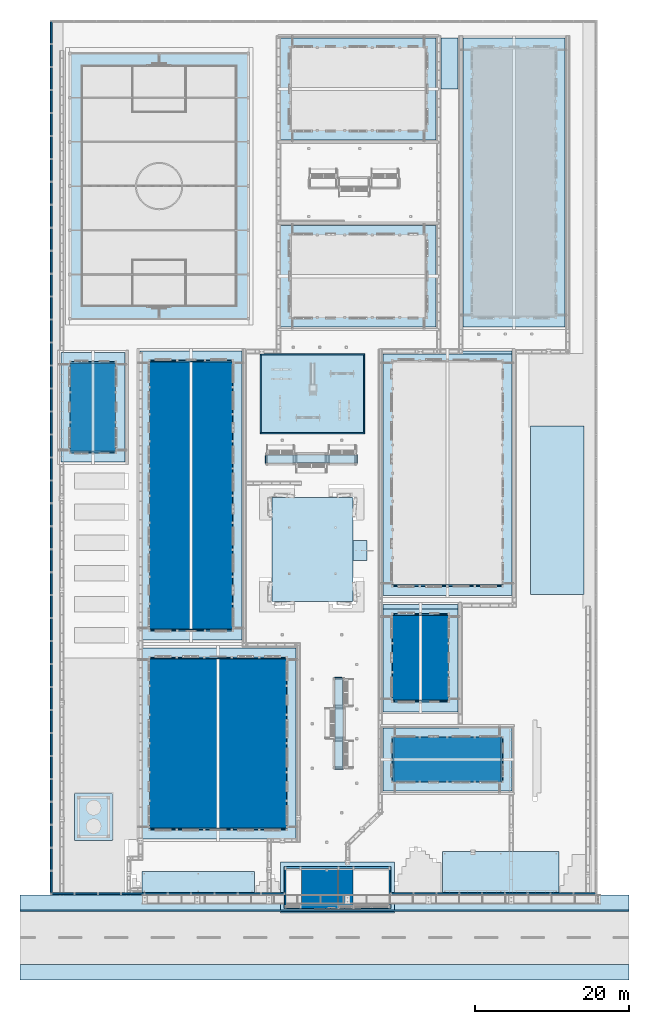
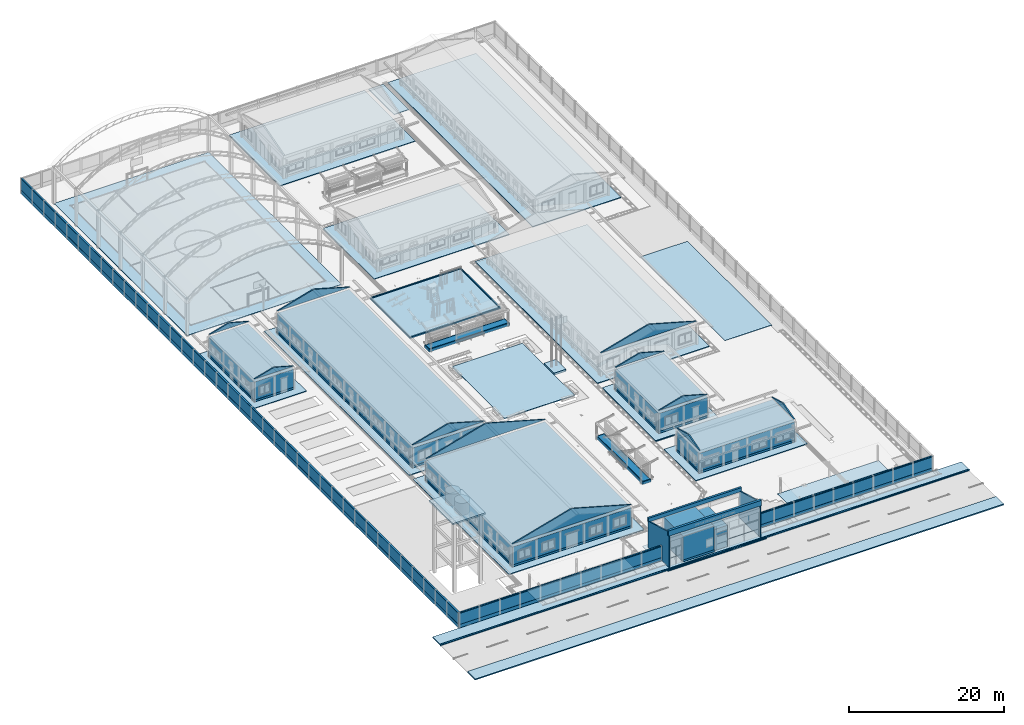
# One storey, part 32 of 151: 41 walls, 31 slabs.
"""IFC2X3 building model written with IfcOpenShell, lengths in metres."""

from ifc_helpers import new_model, si_unit, origin, origin_with_axes, place, context, subcontext, project, spatial, faceted_brep, element, save


model = new_model("IFC2X3")

# Units and contexts
model_context = context("Model", 3, precision=1e-05, world=origin_with_axes())
body_context = subcontext(model_context, "Body", "Model", "MODEL_VIEW")
ifc_project = project(units=[si_unit("LENGTHUNIT", "METRE"), si_unit("AREAUNIT", "SQUARE_METRE"), si_unit("VOLUMEUNIT", "CUBIC_METRE"), si_unit("PLANEANGLEUNIT", "RADIAN")], contexts=[model_context])

# Site, building, storey
site_placement = place(None, origin_with_axes())
site = spatial("IfcSite", under=ifc_project, at=site_placement, Name="Predio Los Mangos - Morales, San Martín", CompositionType="ELEMENT")
building_placement = place(site_placement, origin())
building = spatial("IfcBuilding", under=site, at=building_placement, Name="Hogar de Refugio Temporal", CompositionType="ELEMENT")
storey_placement = place(building_placement, origin())
storey = spatial("IfcBuildingStorey", under=building, at=storey_placement, Name="NIVEL 1 (NPT +0.00)", CompositionType="ELEMENT", Elevation=0.0)

# Slabs
slab_1_placement = place(storey_placement, origin())
element("IfcSlab", 1, at=slab_1_placement, inside=storey, Name="vereda_ext", ObjectType="Piso / losa", PredefinedType="FLOOR", context=body_context, shape_type="Brep", body=[
    faceted_brep([(-3.0, 15.8, -0.02), (-3.0, 17.8, -0.02), (76.0, 17.8, -0.02), (76.0, 15.8, -0.02), (-3.0, 15.8, 0.15), (76.0, 15.8, 0.15), (76.0, 17.8, 0.15), (-3.0, 17.8, 0.15)], [[[0, 1, 2, 3]], [[4, 5, 6, 7]], [[0, 3, 5, 4]], [[3, 2, 6, 5]], [[2, 1, 7, 6]], [[1, 0, 4, 7]]]),
])
slab_2_placement = place(storey_placement, origin())
element("IfcSlab", 2, at=slab_2_placement, inside=storey, Name="vereda_otra", ObjectType="Piso / losa", PredefinedType="FLOOR", context=body_context, shape_type="Brep", body=[
    faceted_brep([(-3.0, 6.8, -0.02), (-3.0, 8.8, -0.02), (76.0, 8.8, -0.02), (76.0, 6.8, -0.02), (-3.0, 6.8, 0.15), (76.0, 6.8, 0.15), (76.0, 8.8, 0.15), (-3.0, 8.8, 0.15)], [[[0, 1, 2, 3]], [[4, 5, 6, 7]], [[0, 3, 5, 4]], [[3, 2, 6, 5]], [[2, 1, 7, 6]], [[1, 0, 4, 7]]]),
])
slab_3_placement = place(storey_placement, origin())
element("IfcSlab", 3, at=slab_3_placement, inside=storey, Name="sardinel", ObjectType="Piso / losa", PredefinedType="FLOOR", context=body_context, shape_type="Brep", body=[
    faceted_brep([(-3.0, 15.7, -0.02), (-3.0, 15.85, -0.02), (76.0, 15.85, -0.02), (76.0, 15.7, -0.02), (-3.0, 15.7, 0.17), (76.0, 15.7, 0.17), (76.0, 15.85, 0.17), (-3.0, 15.85, 0.17)], [[[0, 1, 2, 3]], [[4, 5, 6, 7]], [[0, 3, 5, 4]], [[3, 2, 6, 5]], [[2, 1, 7, 6]], [[1, 0, 4, 7]]]),
])
slab_4_placement = place(storey_placement, origin())
element("IfcSlab", 4, at=slab_4_placement, inside=storey, Name="vereda_0", ObjectType="Piso / losa", PredefinedType="FLOOR", context=body_context, shape_type="Brep", body=[
    faceted_brep([(44.08, 56.674, 0.0), (60.81, 56.674, 0.0), (60.81, 88.004, 0.0), (44.08, 88.004, 0.0), (44.08, 56.674, 0.1), (44.08, 88.004, 0.1), (60.81, 88.004, 0.1), (60.81, 56.674, 0.1)], [[[0, 1, 2, 3]], [[4, 5, 6, 7]], [[3, 2, 6, 5]], [[1, 0, 4, 7]], [[2, 1, 7, 6]], [[0, 3, 5, 4]]]),
])
slab_5_placement = place(storey_placement, origin())
element("IfcSlab", 5, at=slab_5_placement, inside=storey, Name="vereda_1", ObjectType="Piso / losa", PredefinedType="FLOOR", context=body_context, shape_type="Brep", body=[
    faceted_brep([(63.205, 78.669, 0.0), (63.205, 56.844, 0.0), (70.205, 56.844, 0.0), (70.205, 78.669, 0.0), (63.205, 78.669, 0.102), (70.205, 78.669, 0.102), (70.205, 56.844, 0.102), (63.205, 56.844, 0.102)], [[[0, 1, 2, 3]], [[4, 5, 6, 7]], [[0, 3, 5, 4]], [[3, 2, 6, 5]], [[1, 0, 4, 7]], [[2, 1, 7, 6]]]),
])
slab_6_placement = place(storey_placement, origin())
element("IfcSlab", 6, at=slab_6_placement, inside=storey, Name="vereda_2", ObjectType="Piso / losa", PredefinedType="FLOOR", context=body_context, shape_type="Brep", body=[
    faceted_brep([(51.635, 129.024, 0.0), (51.635, 122.424, 0.0), (53.835, 122.424, 0.0), (53.835, 129.024, 0.0), (51.635, 129.024, 0.104), (53.835, 129.024, 0.104), (53.835, 122.424, 0.104), (51.635, 122.424, 0.104)], [[[0, 1, 2, 3]], [[4, 5, 6, 7]], [[0, 3, 5, 4]], [[3, 2, 6, 5]], [[1, 0, 4, 7]], [[2, 1, 7, 6]]]),
])
slab_7_placement = place(storey_placement, origin())
element("IfcSlab", 7, at=slab_7_placement, inside=storey, Name="vereda_3", ObjectType="Piso / losa", PredefinedType="FLOOR", context=body_context, shape_type="Brep", body=[
    faceted_brep([(54.485, 129.024, 0.0), (54.485, 91.494, 0.0), (67.715, 91.494, 0.0), (67.715, 129.024, 0.0), (54.485, 129.024, 0.106), (67.715, 129.024, 0.106), (67.715, 91.494, 0.106), (54.485, 91.494, 0.106)], [[[0, 1, 2, 3]], [[4, 5, 6, 7]], [[1, 0, 4, 7]], [[2, 1, 7, 6]], [[0, 3, 5, 4]], [[3, 2, 6, 5]]]),
])
slab_8_placement = place(storey_placement, origin())
element("IfcSlab", 8, at=slab_8_placement, inside=storey, Name="vereda_4", ObjectType="Piso / losa", PredefinedType="FLOOR", context=body_context, shape_type="Brep", body=[
    faceted_brep([(53.81, 54.905, 0.0), (44.08, 54.905, 0.0), (44.08, 41.575, 0.0), (53.81, 41.575, 0.0), (53.81, 54.905, 0.108), (53.81, 41.575, 0.108), (44.08, 41.575, 0.108), (44.08, 54.905, 0.108)], [[[0, 1, 2, 3]], [[4, 5, 6, 7]], [[1, 0, 4, 7]], [[2, 1, 7, 6]], [[0, 3, 5, 4]], [[3, 2, 6, 5]]]),
])
slab_9_placement = place(storey_placement, origin())
element("IfcSlab", 9, at=slab_9_placement, inside=storey, Name="vereda_5", ObjectType="Piso / losa", PredefinedType="FLOOR", context=body_context, shape_type="Brep", body=[
    faceted_brep([(28.185, 88.004, 0.0), (28.185, 77.709, 0.0), (41.685, 77.709, 0.0), (41.685, 88.004, 0.0), (28.185, 88.004, 0.11), (41.685, 88.004, 0.11), (41.685, 77.709, 0.11), (28.185, 77.709, 0.11)], [[[0, 1, 2, 3]], [[4, 5, 6, 7]], [[0, 3, 5, 4]], [[3, 2, 6, 5]], [[1, 0, 4, 7]], [[2, 1, 7, 6]]]),
])
slab_10_placement = place(storey_placement, origin())
element("IfcSlab", 10, at=slab_10_placement, inside=storey, Name="vereda_6", ObjectType="Piso / losa", PredefinedType="FLOOR", context=body_context, shape_type="Brep", body=[
    faceted_brep([(28.285, 87.904, 0.0), (28.285, 77.809, 0.0), (41.585, 77.809, 0.0), (41.585, 87.904, 0.0), (28.285, 87.904, 0.112), (41.585, 87.904, 0.112), (41.585, 77.809, 0.112), (28.285, 77.809, 0.112)], [[[0, 1, 2, 3]], [[4, 5, 6, 7]], [[0, 3, 5, 4]], [[3, 2, 6, 5]], [[1, 0, 4, 7]], [[2, 1, 7, 6]]]),
])
slab_11_placement = place(storey_placement, origin())
element("IfcSlab", 11, at=slab_11_placement, inside=storey, Name="E-01_piso", ObjectType="Piso / losa", PredefinedType="FLOOR", context=body_context, shape_type="Brep", body=[
    faceted_brep([(12.6, 25.1, 0.0), (12.6, 49.9, 0.0), (32.8, 49.9, 0.0), (32.8, 25.1, 0.0), (12.6, 25.1, 0.15), (32.8, 25.1, 0.15), (32.8, 49.9, 0.15), (12.6, 49.9, 0.15)], [[[0, 1, 2, 3]], [[4, 5, 6, 7]], [[0, 3, 5, 4]], [[3, 2, 6, 5]], [[2, 1, 7, 6]], [[1, 0, 4, 7]]]),
])
slab_12_placement = place(storey_placement, origin())
element("IfcSlab", 12, at=slab_12_placement, inside=storey, Name="E-02_piso", ObjectType="Piso / losa", PredefinedType="FLOOR", context=body_context, shape_type="Brep", body=[
    faceted_brep([(44.1, 41.7, 0.0), (44.1, 55.5, 0.0), (53.8, 55.5, 0.0), (53.8, 41.7, 0.0), (44.1, 41.7, 0.15), (53.8, 41.7, 0.15), (53.8, 55.5, 0.15), (44.1, 55.5, 0.15)], [[[0, 1, 2, 3]], [[4, 5, 6, 7]], [[0, 3, 5, 4]], [[3, 2, 6, 5]], [[2, 1, 7, 6]], [[1, 0, 4, 7]]]),
])
slab_13_placement = place(storey_placement, origin())
element("IfcSlab", 13, at=slab_13_placement, inside=storey, Name="E-03_piso", ObjectType="Piso / losa", PredefinedType="FLOOR", context=body_context, shape_type="Brep", body=[
    faceted_brep([(44.1, 31.3, 0.0), (44.1, 39.5, 0.0), (60.8, 39.5, 0.0), (60.8, 31.3, 0.0), (44.1, 31.3, 0.15), (60.8, 31.3, 0.15), (60.8, 39.5, 0.15), (44.1, 39.5, 0.15)], [[[0, 1, 2, 3]], [[4, 5, 6, 7]], [[0, 3, 5, 4]], [[3, 2, 6, 5]], [[2, 1, 7, 6]], [[1, 0, 4, 7]]]),
])
slab_14_placement = place(storey_placement, origin())
element("IfcSlab", 14, at=slab_14_placement, inside=storey, Name="E-04_piso", ObjectType="Piso / losa", PredefinedType="FLOOR", context=body_context, shape_type="Brep", body=[
    faceted_brep([(12.6, 50.9, 0.0), (12.6, 88.4, 0.0), (25.8, 88.4, 0.0), (25.8, 50.9, 0.0), (12.6, 50.9, 0.15), (25.8, 50.9, 0.15), (25.8, 88.4, 0.15), (12.6, 88.4, 0.15)], [[[0, 1, 2, 3]], [[4, 5, 6, 7]], [[0, 3, 5, 4]], [[3, 2, 6, 5]], [[2, 1, 7, 6]], [[1, 0, 4, 7]]]),
])
slab_15_placement = place(storey_placement, origin())
element("IfcSlab", 15, at=slab_15_placement, inside=storey, Name="E-05_piso", ObjectType="Piso / losa", PredefinedType="FLOOR", context=body_context, shape_type="Brep", body=[
    faceted_brep([(44.1, 56.7, 0.0), (44.1, 88.4, 0.0), (60.8, 88.4, 0.0), (60.8, 56.7, 0.0), (44.1, 56.7, 0.15), (60.8, 56.7, 0.15), (60.8, 88.4, 0.15), (44.1, 88.4, 0.15)], [[[0, 1, 2, 3]], [[4, 5, 6, 7]], [[0, 3, 5, 4]], [[3, 2, 6, 5]], [[2, 1, 7, 6]], [[1, 0, 4, 7]]]),
])
slab_16_placement = place(storey_placement, origin())
element("IfcSlab", 16, at=slab_16_placement, inside=storey, Name="E-06_piso", ObjectType="Piso / losa", PredefinedType="FLOOR", context=body_context, shape_type="Brep", body=[
    faceted_brep([(30.8, 91.5, 0.0), (30.8, 104.7, 0.0), (51.0, 104.7, 0.0), (51.0, 91.5, 0.0), (30.8, 91.5, 0.15), (51.0, 91.5, 0.15), (51.0, 104.7, 0.15), (30.8, 104.7, 0.15)], [[[0, 1, 2, 3]], [[4, 5, 6, 7]], [[0, 3, 5, 4]], [[3, 2, 6, 5]], [[2, 1, 7, 6]], [[1, 0, 4, 7]]]),
])
slab_17_placement = place(storey_placement, origin())
element("IfcSlab", 17, at=slab_17_placement, inside=storey, Name="E-08_piso", ObjectType="Piso / losa", PredefinedType="FLOOR", context=body_context, shape_type="Brep", body=[
    faceted_brep([(30.8, 115.8, 0.0), (30.8, 129.0, 0.0), (51.0, 129.0, 0.0), (51.0, 115.8, 0.0), (30.8, 115.8, 0.15), (51.0, 115.8, 0.15), (51.0, 129.0, 0.15), (30.8, 129.0, 0.15)], [[[0, 1, 2, 3]], [[4, 5, 6, 7]], [[0, 3, 5, 4]], [[3, 2, 6, 5]], [[2, 1, 7, 6]], [[1, 0, 4, 7]]]),
])
slab_18_placement = place(storey_placement, origin())
element("IfcSlab", 18, at=slab_18_placement, inside=storey, Name="E-07_piso", ObjectType="Piso / losa", PredefinedType="FLOOR", context=body_context, shape_type="Brep", body=[
    faceted_brep([(54.5, 91.5, 0.0), (54.5, 129.0, 0.0), (67.7, 129.0, 0.0), (67.7, 91.5, 0.0), (54.5, 91.5, 0.15), (67.7, 91.5, 0.15), (67.7, 129.0, 0.15), (54.5, 129.0, 0.15)], [[[0, 1, 2, 3]], [[4, 5, 6, 7]], [[0, 3, 5, 4]], [[3, 2, 6, 5]], [[2, 1, 7, 6]], [[1, 0, 4, 7]]]),
])
slab_19_placement = place(storey_placement, origin())
element("IfcSlab", 19, at=slab_19_placement, inside=storey, Name="E-09_piso", ObjectType="Piso / losa", PredefinedType="FLOOR", context=body_context, shape_type="Brep", body=[
    faceted_brep([(2.3, 74.0, 0.0), (2.3, 88.2, 0.0), (10.6, 88.2, 0.0), (10.6, 74.0, 0.0), (2.3, 74.0, 0.15), (10.6, 74.0, 0.15), (10.6, 88.2, 0.15), (2.3, 88.2, 0.15)], [[[0, 1, 2, 3]], [[4, 5, 6, 7]], [[0, 3, 5, 4]], [[3, 2, 6, 5]], [[2, 1, 7, 6]], [[1, 0, 4, 7]]]),
])
slab_20_placement = place(storey_placement, origin())
element("IfcSlab", 20, at=slab_20_placement, inside=storey, Name="losa", ObjectType="Piso / losa", PredefinedType="FLOOR", context=body_context, shape_type="Brep", body=[
    faceted_brep([(3.5, 92.6, 0.0), (3.5, 127.0, 0.0), (26.6, 127.0, 0.0), (26.6, 92.6, 0.0), (3.5, 92.6, 0.12), (26.6, 92.6, 0.12), (26.6, 127.0, 0.12), (3.5, 127.0, 0.12)], [[[0, 1, 2, 3]], [[4, 5, 6, 7]], [[0, 3, 5, 4]], [[3, 2, 6, 5]], [[2, 1, 7, 6]], [[1, 0, 4, 7]]]),
])
slab_21_placement = place(storey_placement, origin())
element("IfcSlab", 21, at=slab_21_placement, inside=storey, Name="oe01_piso", ObjectType="Piso / losa", PredefinedType="FLOOR", context=body_context, shape_type="Brep", body=[
    faceted_brep([(30.8, 15.5, 0.0), (30.8, 22.1, 0.0), (45.6, 22.1, 0.0), (45.6, 15.5, 0.0), (30.8, 15.5, 0.05), (45.6, 15.5, 0.05), (45.6, 22.1, 0.05), (30.8, 22.1, 0.05)], [[[0, 1, 2, 3]], [[4, 5, 6, 7]], [[0, 3, 5, 4]], [[3, 2, 6, 5]], [[2, 1, 7, 6]], [[1, 0, 4, 7]]]),
])
slab_22_placement = place(storey_placement, origin())
element("IfcSlab", 22, at=slab_22_placement, inside=storey, Name="losa_autos", ObjectType="Piso / losa", PredefinedType="FLOOR", context=body_context, shape_type="Brep", body=[
    faceted_brep([(51.8, 18.0, 0.0), (51.8, 23.5, 0.0), (66.9, 23.5, 0.0), (66.9, 18.0, 0.0), (51.8, 18.0, 0.1), (66.9, 18.0, 0.1), (66.9, 23.5, 0.1), (51.8, 23.5, 0.1)], [[[0, 1, 2, 3]], [[4, 5, 6, 7]], [[0, 3, 5, 4]], [[3, 2, 6, 5]], [[2, 1, 7, 6]], [[1, 0, 4, 7]]]),
])
slab_23_placement = place(storey_placement, origin())
element("IfcSlab", 23, at=slab_23_placement, inside=storey, Name="losa_motos", ObjectType="Piso / losa", PredefinedType="FLOOR", context=body_context, shape_type="Brep", body=[
    faceted_brep([(12.8, 18.0, 0.0), (12.8, 20.9, 0.0), (27.4, 20.9, 0.0), (27.4, 18.0, 0.0), (12.8, 18.0, 0.1), (27.4, 18.0, 0.1), (27.4, 20.9, 0.1), (12.8, 20.9, 0.1)], [[[0, 1, 2, 3]], [[4, 5, 6, 7]], [[0, 3, 5, 4]], [[3, 2, 6, 5]], [[2, 1, 7, 6]], [[1, 0, 4, 7]]]),
])
slab_24_placement = place(storey_placement, origin())
element("IfcSlab", 24, at=slab_24_placement, inside=storey, Name="tanque_losa", ObjectType="Piso / losa", PredefinedType="FLOOR", context=body_context, shape_type="Brep", body=[
    faceted_brep([(4.1, 24.9, 11.0), (4.1, 31.0, 11.0), (9.0, 31.0, 11.0), (9.0, 24.9, 11.0), (4.1, 24.9, 11.25), (9.0, 24.9, 11.25), (9.0, 31.0, 11.25), (4.1, 31.0, 11.25)], [[[0, 1, 2, 3]], [[4, 5, 6, 7]], [[0, 3, 5, 4]], [[3, 2, 6, 5]], [[2, 1, 7, 6]], [[1, 0, 4, 7]]]),
])
slab_25_placement = place(storey_placement, origin())
element("IfcSlab", 25, at=slab_25_placement, inside=storey, Name="plaza_piso", ObjectType="Piso / losa", PredefinedType="FLOOR", context=body_context, shape_type="Brep", body=[
    faceted_brep([(29.7, 55.9, 0.0), (29.7, 69.4, 0.0), (40.2, 69.4, 0.0), (40.2, 55.9, 0.0), (29.7, 55.9, 0.12), (40.2, 55.9, 0.12), (40.2, 69.4, 0.12), (29.7, 69.4, 0.12)], [[[0, 1, 2, 3]], [[4, 5, 6, 7]], [[0, 3, 5, 4]], [[3, 2, 6, 5]], [[2, 1, 7, 6]], [[1, 0, 4, 7]]]),
])
slab_26_placement = place(storey_placement, origin())
element("IfcSlab", 26, at=slab_26_placement, inside=storey, Name="asta_base", ObjectType="Piso / losa", PredefinedType="FLOOR", context=body_context, shape_type="Brep", body=[
    faceted_brep([(40.2, 61.2, 0.0), (40.2, 63.8, 0.0), (42.0, 63.8, 0.0), (42.0, 61.2, 0.0), (40.2, 61.2, 0.35), (42.0, 61.2, 0.35), (42.0, 63.8, 0.35), (40.2, 63.8, 0.35)], [[[0, 1, 2, 3]], [[4, 5, 6, 7]], [[0, 3, 5, 4]], [[3, 2, 6, 5]], [[2, 1, 7, 6]], [[1, 0, 4, 7]]]),
])
slab_27_placement = place(storey_placement, origin())
element("IfcSlab", 27, at=slab_27_placement, inside=storey, Name="juegos_arena", ObjectType="Piso / losa", PredefinedType="FLOOR", context=body_context, shape_type="Brep", body=[
    faceted_brep([(28.3, 77.8, 0.0), (28.3, 87.9, 0.0), (41.6, 87.9, 0.0), (41.6, 77.8, 0.0), (28.3, 77.8, 0.13), (41.6, 77.8, 0.13), (41.6, 87.9, 0.13), (28.3, 87.9, 0.13)], [[[0, 1, 2, 3]], [[4, 5, 6, 7]], [[0, 3, 5, 4]], [[3, 2, 6, 5]], [[2, 1, 7, 6]], [[1, 0, 4, 7]]]),
])
slab_28_placement = place(storey_placement, origin())
element("IfcSlab", 28, at=slab_28_placement, inside=storey, Name="juegos_sardinel", ObjectType="Piso / losa", PredefinedType="FLOOR", context=body_context, shape_type="Brep", body=[
    faceted_brep([(28.15, 77.65, 0.0), (28.15, 77.8, 0.0), (41.75, 77.8, 0.0), (41.75, 77.65, 0.0), (28.15, 77.65, 0.26), (41.75, 77.65, 0.26), (41.75, 77.8, 0.26), (28.15, 77.8, 0.26)], [[[0, 1, 2, 3]], [[4, 5, 6, 7]], [[0, 3, 5, 4]], [[3, 2, 6, 5]], [[2, 1, 7, 6]], [[1, 0, 4, 7]]]),
])
slab_29_placement = place(storey_placement, origin())
element("IfcSlab", 29, at=slab_29_placement, inside=storey, Name="juegos_sardinel", ObjectType="Piso / losa", PredefinedType="FLOOR", context=body_context, shape_type="Brep", body=[
    faceted_brep([(28.15, 87.9, 0.0), (28.15, 88.05, 0.0), (41.75, 88.05, 0.0), (41.75, 87.9, 0.0), (28.15, 87.9, 0.26), (41.75, 87.9, 0.26), (41.75, 88.05, 0.26), (28.15, 88.05, 0.26)], [[[0, 1, 2, 3]], [[4, 5, 6, 7]], [[0, 3, 5, 4]], [[3, 2, 6, 5]], [[2, 1, 7, 6]], [[1, 0, 4, 7]]]),
])
slab_30_placement = place(storey_placement, origin())
element("IfcSlab", 30, at=slab_30_placement, inside=storey, Name="juegos_sardinel", ObjectType="Piso / losa", PredefinedType="FLOOR", context=body_context, shape_type="Brep", body=[
    faceted_brep([(28.15, 77.8, 0.0), (28.15, 87.9, 0.0), (28.3, 87.9, 0.0), (28.3, 77.8, 0.0), (28.15, 77.8, 0.26), (28.3, 77.8, 0.26), (28.3, 87.9, 0.26), (28.15, 87.9, 0.26)], [[[0, 1, 2, 3]], [[4, 5, 6, 7]], [[0, 3, 5, 4]], [[3, 2, 6, 5]], [[2, 1, 7, 6]], [[1, 0, 4, 7]]]),
])
slab_31_placement = place(storey_placement, origin())
element("IfcSlab", 31, at=slab_31_placement, inside=storey, Name="juegos_sardinel", ObjectType="Piso / losa", PredefinedType="FLOOR", context=body_context, shape_type="Brep", body=[
    faceted_brep([(41.6, 77.8, 0.0), (41.6, 87.9, 0.0), (41.75, 87.9, 0.0), (41.75, 77.8, 0.0), (41.6, 77.8, 0.26), (41.75, 77.8, 0.26), (41.75, 87.9, 0.26), (41.6, 87.9, 0.26)], [[[0, 1, 2, 3]], [[4, 5, 6, 7]], [[0, 3, 5, 4]], [[3, 2, 6, 5]], [[2, 1, 7, 6]], [[1, 0, 4, 7]]]),
])

# Walls
wall_1_placement = place(storey_placement, origin())
element("IfcWall", 32, at=wall_1_placement, inside=storey, Name="E-01_muro", ObjectType="Muro", context=body_context, shape_type="Brep", body=[
    faceted_brep([(13.8, 26.3, 0.15), (13.8, 48.7, 0.15), (31.6, 48.7, 0.15), (31.6, 26.3, 0.15), (13.8, 26.3, 3.3), (31.6, 26.3, 3.3), (31.6, 48.7, 3.3), (13.8, 48.7, 3.3)], [[[0, 1, 2, 3]], [[4, 5, 6, 7]], [[0, 3, 5, 4]], [[3, 2, 6, 5]], [[2, 1, 7, 6]], [[1, 0, 4, 7]]]),
])
wall_2_placement = place(storey_placement, origin())
element("IfcWall", 33, at=wall_2_placement, inside=storey, Name="E-01_zocalo", ObjectType="Muro", context=body_context, shape_type="Brep", body=[
    faceted_brep([(13.78, 26.28, 0.15), (13.78, 48.72, 0.15), (31.62, 48.72, 0.15), (31.62, 26.28, 0.15), (13.78, 26.28, 0.45), (31.62, 26.28, 0.45), (31.62, 48.72, 0.45), (13.78, 48.72, 0.45)], [[[0, 1, 2, 3]], [[4, 5, 6, 7]], [[0, 3, 5, 4]], [[3, 2, 6, 5]], [[2, 1, 7, 6]], [[1, 0, 4, 7]]]),
])
wall_3_placement = place(storey_placement, origin())
element("IfcWall", 34, at=wall_3_placement, inside=storey, Name="E-01_hastial", ObjectType="Muro", context=body_context, shape_type="Brep", body=[
    faceted_brep([(13.8, 26.3, 3.75), (22.7, 26.3, 6.242), (31.6, 26.3, 3.75), (13.8, 26.5, 3.75), (31.6, 26.5, 3.75), (22.7, 26.5, 6.242)], [[[0, 1, 2]], [[3, 4, 5]], [[0, 3, 5, 1]], [[1, 5, 4, 2]], [[0, 2, 4, 3]]]),
])
wall_4_placement = place(storey_placement, origin())
element("IfcWall", 35, at=wall_4_placement, inside=storey, Name="E-01_hastial", ObjectType="Muro", context=body_context, shape_type="Brep", body=[
    faceted_brep([(13.8, 48.7, 3.75), (22.7, 48.7, 6.242), (31.6, 48.7, 3.75), (13.8, 48.5, 3.75), (31.6, 48.5, 3.75), (22.7, 48.5, 6.242)], [[[0, 1, 2]], [[3, 4, 5]], [[0, 3, 5, 1]], [[1, 5, 4, 2]], [[0, 2, 4, 3]]]),
])
wall_5_placement = place(storey_placement, origin())
element("IfcWall", 36, at=wall_5_placement, inside=storey, Name="E-02_muro", ObjectType="Muro", context=body_context, shape_type="Brep", body=[
    faceted_brep([(45.3, 42.9, 0.15), (45.3, 54.3, 0.15), (52.6, 54.3, 0.15), (52.6, 42.9, 0.15), (45.3, 42.9, 3.3), (52.6, 42.9, 3.3), (52.6, 54.3, 3.3), (45.3, 54.3, 3.3)], [[[0, 1, 2, 3]], [[4, 5, 6, 7]], [[0, 3, 5, 4]], [[3, 2, 6, 5]], [[2, 1, 7, 6]], [[1, 0, 4, 7]]]),
])
wall_6_placement = place(storey_placement, origin())
element("IfcWall", 37, at=wall_6_placement, inside=storey, Name="E-02_zocalo", ObjectType="Muro", context=body_context, shape_type="Brep", body=[
    faceted_brep([(45.28, 42.88, 0.15), (45.28, 54.32, 0.15), (52.62, 54.32, 0.15), (52.62, 42.88, 0.15), (45.28, 42.88, 0.45), (52.62, 42.88, 0.45), (52.62, 54.32, 0.45), (45.28, 54.32, 0.45)], [[[0, 1, 2, 3]], [[4, 5, 6, 7]], [[0, 3, 5, 4]], [[3, 2, 6, 5]], [[2, 1, 7, 6]], [[1, 0, 4, 7]]]),
])
wall_7_placement = place(storey_placement, origin())
element("IfcWall", 38, at=wall_7_placement, inside=storey, Name="E-02_hastial", ObjectType="Muro", context=body_context, shape_type="Brep", body=[
    faceted_brep([(45.3, 42.9, 3.75), (48.95, 42.9, 4.772), (52.6, 42.9, 3.75), (45.3, 43.1, 3.75), (52.6, 43.1, 3.75), (48.95, 43.1, 4.772)], [[[0, 1, 2]], [[3, 4, 5]], [[0, 3, 5, 1]], [[1, 5, 4, 2]], [[0, 2, 4, 3]]]),
])
wall_8_placement = place(storey_placement, origin())
element("IfcWall", 39, at=wall_8_placement, inside=storey, Name="E-02_hastial", ObjectType="Muro", context=body_context, shape_type="Brep", body=[
    faceted_brep([(45.3, 54.3, 3.75), (48.95, 54.3, 4.772), (52.6, 54.3, 3.75), (45.3, 54.1, 3.75), (52.6, 54.1, 3.75), (48.95, 54.1, 4.772)], [[[0, 1, 2]], [[3, 4, 5]], [[0, 3, 5, 1]], [[1, 5, 4, 2]], [[0, 2, 4, 3]]]),
])
wall_9_placement = place(storey_placement, origin())
element("IfcWall", 40, at=wall_9_placement, inside=storey, Name="E-03_muro", ObjectType="Muro", context=body_context, shape_type="Brep", body=[
    faceted_brep([(45.3, 32.5, 0.15), (45.3, 38.3, 0.15), (59.6, 38.3, 0.15), (59.6, 32.5, 0.15), (45.3, 32.5, 3.3), (59.6, 32.5, 3.3), (59.6, 38.3, 3.3), (45.3, 38.3, 3.3)], [[[0, 1, 2, 3]], [[4, 5, 6, 7]], [[0, 3, 5, 4]], [[3, 2, 6, 5]], [[2, 1, 7, 6]], [[1, 0, 4, 7]]]),
])
wall_10_placement = place(storey_placement, origin())
element("IfcWall", 41, at=wall_10_placement, inside=storey, Name="E-03_zocalo", ObjectType="Muro", context=body_context, shape_type="Brep", body=[
    faceted_brep([(45.28, 32.48, 0.15), (45.28, 38.32, 0.15), (59.62, 38.32, 0.15), (59.62, 32.48, 0.15), (45.28, 32.48, 0.45), (59.62, 32.48, 0.45), (59.62, 38.32, 0.45), (45.28, 38.32, 0.45)], [[[0, 1, 2, 3]], [[4, 5, 6, 7]], [[0, 3, 5, 4]], [[3, 2, 6, 5]], [[2, 1, 7, 6]], [[1, 0, 4, 7]]]),
])
wall_11_placement = place(storey_placement, origin())
element("IfcWall", 42, at=wall_11_placement, inside=storey, Name="E-03_hastial", ObjectType="Muro", context=body_context, shape_type="Brep", body=[
    faceted_brep([(45.3, 32.5, 3.75), (45.3, 35.4, 4.562), (45.3, 38.3, 3.75), (45.5, 32.5, 3.75), (45.5, 38.3, 3.75), (45.5, 35.4, 4.562)], [[[0, 1, 2]], [[3, 4, 5]], [[0, 3, 5, 1]], [[1, 5, 4, 2]], [[0, 2, 4, 3]]]),
])
wall_12_placement = place(storey_placement, origin())
element("IfcWall", 43, at=wall_12_placement, inside=storey, Name="E-03_hastial", ObjectType="Muro", context=body_context, shape_type="Brep", body=[
    faceted_brep([(59.6, 32.5, 3.75), (59.6, 35.4, 4.562), (59.6, 38.3, 3.75), (59.4, 32.5, 3.75), (59.4, 38.3, 3.75), (59.4, 35.4, 4.562)], [[[0, 1, 2]], [[3, 4, 5]], [[0, 3, 5, 1]], [[1, 5, 4, 2]], [[0, 2, 4, 3]]]),
])
wall_13_placement = place(storey_placement, origin())
element("IfcWall", 44, at=wall_13_placement, inside=storey, Name="E-04_muro", ObjectType="Muro", context=body_context, shape_type="Brep", body=[
    faceted_brep([(13.8, 52.1, 0.15), (13.8, 87.2, 0.15), (24.6, 87.2, 0.15), (24.6, 52.1, 0.15), (13.8, 52.1, 3.3), (24.6, 52.1, 3.3), (24.6, 87.2, 3.3), (13.8, 87.2, 3.3)], [[[0, 1, 2, 3]], [[4, 5, 6, 7]], [[0, 3, 5, 4]], [[3, 2, 6, 5]], [[2, 1, 7, 6]], [[1, 0, 4, 7]]]),
])
wall_14_placement = place(storey_placement, origin())
element("IfcWall", 45, at=wall_14_placement, inside=storey, Name="E-04_zocalo", ObjectType="Muro", context=body_context, shape_type="Brep", body=[
    faceted_brep([(13.78, 52.08, 0.15), (13.78, 87.22, 0.15), (24.62, 87.22, 0.15), (24.62, 52.08, 0.15), (13.78, 52.08, 0.45), (24.62, 52.08, 0.45), (24.62, 87.22, 0.45), (13.78, 87.22, 0.45)], [[[0, 1, 2, 3]], [[4, 5, 6, 7]], [[0, 3, 5, 4]], [[3, 2, 6, 5]], [[2, 1, 7, 6]], [[1, 0, 4, 7]]]),
])
wall_15_placement = place(storey_placement, origin())
element("IfcWall", 46, at=wall_15_placement, inside=storey, Name="E-04_hastial", ObjectType="Muro", context=body_context, shape_type="Brep", body=[
    faceted_brep([(13.8, 52.1, 3.75), (19.2, 52.1, 5.262), (24.6, 52.1, 3.75), (13.8, 52.3, 3.75), (24.6, 52.3, 3.75), (19.2, 52.3, 5.262)], [[[0, 1, 2]], [[3, 4, 5]], [[0, 3, 5, 1]], [[1, 5, 4, 2]], [[0, 2, 4, 3]]]),
])
wall_16_placement = place(storey_placement, origin())
element("IfcWall", 47, at=wall_16_placement, inside=storey, Name="E-04_hastial", ObjectType="Muro", context=body_context, shape_type="Brep", body=[
    faceted_brep([(13.8, 87.2, 3.75), (19.2, 87.2, 5.262), (24.6, 87.2, 3.75), (13.8, 87.0, 3.75), (24.6, 87.0, 3.75), (19.2, 87.0, 5.262)], [[[0, 1, 2]], [[3, 4, 5]], [[0, 3, 5, 1]], [[1, 5, 4, 2]], [[0, 2, 4, 3]]]),
])
wall_17_placement = place(storey_placement, origin())
element("IfcWall", 48, at=wall_17_placement, inside=storey, Name="E-05_hastial", ObjectType="Muro", context=body_context, shape_type="Brep", body=[
    faceted_brep([(45.3, 57.9, 3.75), (52.45, 57.9, 5.752), (59.6, 57.9, 3.75), (45.3, 58.1, 3.75), (59.6, 58.1, 3.75), (52.45, 58.1, 5.752)], [[[0, 1, 2]], [[3, 4, 5]], [[0, 3, 5, 1]], [[1, 5, 4, 2]], [[0, 2, 4, 3]]]),
])
wall_18_placement = place(storey_placement, origin())
element("IfcWall", 49, at=wall_18_placement, inside=storey, Name="E-09_muro", ObjectType="Muro", context=body_context, shape_type="Brep", body=[
    faceted_brep([(3.5, 75.2, 0.15), (3.5, 87.0, 0.15), (9.4, 87.0, 0.15), (9.4, 75.2, 0.15), (3.5, 75.2, 3.3), (9.4, 75.2, 3.3), (9.4, 87.0, 3.3), (3.5, 87.0, 3.3)], [[[0, 1, 2, 3]], [[4, 5, 6, 7]], [[0, 3, 5, 4]], [[3, 2, 6, 5]], [[2, 1, 7, 6]], [[1, 0, 4, 7]]]),
])
wall_19_placement = place(storey_placement, origin())
element("IfcWall", 50, at=wall_19_placement, inside=storey, Name="E-09_zocalo", ObjectType="Muro", context=body_context, shape_type="Brep", body=[
    faceted_brep([(3.48, 75.18, 0.15), (3.48, 87.02, 0.15), (9.42, 87.02, 0.15), (9.42, 75.18, 0.15), (3.48, 75.18, 0.45), (9.42, 75.18, 0.45), (9.42, 87.02, 0.45), (3.48, 87.02, 0.45)], [[[0, 1, 2, 3]], [[4, 5, 6, 7]], [[0, 3, 5, 4]], [[3, 2, 6, 5]], [[2, 1, 7, 6]], [[1, 0, 4, 7]]]),
])
wall_20_placement = place(storey_placement, origin())
element("IfcWall", 51, at=wall_20_placement, inside=storey, Name="E-09_hastial", ObjectType="Muro", context=body_context, shape_type="Brep", body=[
    faceted_brep([(3.5, 75.2, 3.75), (6.45, 75.2, 4.576), (9.4, 75.2, 3.75), (3.5, 75.4, 3.75), (9.4, 75.4, 3.75), (6.45, 75.4, 4.576)], [[[0, 1, 2]], [[3, 4, 5]], [[0, 3, 5, 1]], [[1, 5, 4, 2]], [[0, 2, 4, 3]]]),
])
wall_21_placement = place(storey_placement, origin())
element("IfcWall", 52, at=wall_21_placement, inside=storey, Name="E-09_hastial", ObjectType="Muro", context=body_context, shape_type="Brep", body=[
    faceted_brep([(3.5, 87.0, 3.75), (6.45, 87.0, 4.576), (9.4, 87.0, 3.75), (3.5, 86.8, 3.75), (9.4, 86.8, 3.75), (6.45, 86.8, 4.576)], [[[0, 1, 2]], [[3, 4, 5]], [[0, 3, 5, 1]], [[1, 5, 4, 2]], [[0, 2, 4, 3]]]),
])
wall_22_placement = place(storey_placement, origin())
element("IfcWall", 53, at=wall_22_placement, inside=storey, Name="oe01_parapeto", ObjectType="Muro", context=body_context, shape_type="Brep", body=[
    faceted_brep([(31.25, 16.05, 5.09), (31.25, 16.4, 5.09), (45.15, 16.4, 5.09), (45.15, 16.05, 5.09), (31.25, 16.05, 5.95), (45.15, 16.05, 5.95), (45.15, 16.4, 5.95), (31.25, 16.4, 5.95)], [[[0, 1, 2, 3]], [[4, 5, 6, 7]], [[0, 3, 5, 4]], [[3, 2, 6, 5]], [[2, 1, 7, 6]], [[1, 0, 4, 7]]]),
])
wall_23_placement = place(storey_placement, origin())
element("IfcWall", 54, at=wall_23_placement, inside=storey, Name="oe01_parapeto_post", ObjectType="Muro", context=body_context, shape_type="Brep", body=[
    faceted_brep([(31.25, 21.25, 4.19), (31.25, 21.55, 4.19), (45.15, 21.55, 4.19), (45.15, 21.25, 4.19), (31.25, 21.25, 4.79), (45.15, 21.25, 4.79), (45.15, 21.55, 4.79), (31.25, 21.55, 4.79)], [[[0, 1, 2, 3]], [[4, 5, 6, 7]], [[0, 3, 5, 4]], [[3, 2, 6, 5]], [[2, 1, 7, 6]], [[1, 0, 4, 7]]]),
])
wall_24_placement = place(storey_placement, origin())
element("IfcWall", 55, at=wall_24_placement, inside=storey, Name="oe01_lateral", ObjectType="Muro", context=body_context, shape_type="Brep", body=[
    faceted_brep([(31.3, 16.1, 0.05), (31.3, 21.5, 0.05), (31.3, 21.5, 4.19), (31.3, 16.1, 5.72), (31.5, 16.1, 0.05), (31.5, 16.1, 5.72), (31.5, 21.5, 4.19), (31.5, 21.5, 0.05)], [[[0, 1, 2, 3]], [[4, 5, 6, 7]], [[0, 4, 7, 1]], [[1, 7, 6, 2]], [[2, 6, 5, 3]], [[3, 5, 4, 0]]]),
])
wall_25_placement = place(storey_placement, origin())
element("IfcWall", 56, at=wall_25_placement, inside=storey, Name="oe01_lateral", ObjectType="Muro", context=body_context, shape_type="Brep", body=[
    faceted_brep([(45.1, 16.1, 0.05), (45.1, 21.5, 0.05), (45.1, 21.5, 4.19), (45.1, 16.1, 5.72), (44.9, 16.1, 0.05), (44.9, 16.1, 5.72), (44.9, 21.5, 4.19), (44.9, 21.5, 0.05)], [[[0, 1, 2, 3]], [[4, 5, 6, 7]], [[0, 4, 7, 1]], [[1, 7, 6, 2]], [[2, 6, 5, 3]], [[3, 5, 4, 0]]]),
])
wall_26_placement = place(storey_placement, origin())
element("IfcWall", 57, at=wall_26_placement, inside=storey, Name="oe01_muro_m1", ObjectType="Muro", context=body_context, shape_type="Brep", body=[
    faceted_brep([(33.518, 16.25, 0.05), (33.518, 21.35, 0.05), (38.1649, 21.35, 0.05), (38.1649, 16.25, 0.05), (33.518, 16.25, 4.18), (38.1649, 16.25, 4.18), (38.1649, 21.35, 4.18), (33.518, 21.35, 4.18)], [[[0, 1, 2, 3]], [[4, 5, 6, 7]], [[0, 3, 5, 4]], [[3, 2, 6, 5]], [[2, 1, 7, 6]], [[1, 0, 4, 7]]]),
])
wall_27_placement = place(storey_placement, origin())
element("IfcWall", 58, at=wall_27_placement, inside=storey, Name="oe01_zocalo", ObjectType="Muro", context=body_context, shape_type="Brep", body=[
    faceted_brep([(33.508, 16.24, 0.05), (33.508, 16.3, 0.05), (38.1749, 16.3, 0.05), (38.1749, 16.24, 0.05), (33.508, 16.24, 0.45), (38.1749, 16.24, 0.45), (38.1749, 16.3, 0.45), (33.508, 16.3, 0.45)], [[[0, 1, 2, 3]], [[4, 5, 6, 7]], [[0, 3, 5, 4]], [[3, 2, 6, 5]], [[2, 1, 7, 6]], [[1, 0, 4, 7]]]),
])
wall_28_placement = place(storey_placement, origin())
element("IfcWall", 59, at=wall_28_placement, inside=storey, Name="oe01_caseta", ObjectType="Muro", context=body_context, shape_type="Brep", body=[
    faceted_brep([(38.3255, 16.4, 0.05), (38.3255, 21.35, 0.05), (40.2324, 21.35, 0.05), (40.2324, 16.4, 0.05), (38.3255, 16.4, 3.5), (40.2324, 16.4, 3.5), (40.2324, 21.35, 3.5), (38.3255, 21.35, 3.5)], [[[0, 1, 2, 3]], [[4, 5, 6, 7]], [[0, 3, 5, 4]], [[3, 2, 6, 5]], [[2, 1, 7, 6]], [[1, 0, 4, 7]]]),
])
wall_29_placement = place(storey_placement, origin())
element("IfcWall", 60, at=wall_29_placement, inside=storey, Name="cerco_muro", ObjectType="Muro", context=body_context, shape_type="Brep", body=[
    faceted_brep([(1.05, 17.925, 0.0), (1.05, 18.075, 0.0), (31.3, 18.075, 0.0), (31.3, 17.925, 0.0), (1.05, 17.925, 2.4), (31.3, 17.925, 2.4), (31.3, 18.075, 2.4), (1.05, 18.075, 2.4)], [[[0, 1, 2, 3]], [[4, 5, 6, 7]], [[0, 3, 5, 4]], [[3, 2, 6, 5]], [[2, 1, 7, 6]], [[1, 0, 4, 7]]]),
])
wall_30_placement = place(storey_placement, origin())
element("IfcWall", 61, at=wall_30_placement, inside=storey, Name="cerco_zocalo", ObjectType="Muro", context=body_context, shape_type="Brep", body=[
    faceted_brep([(1.05, 17.915, 0.0), (1.05, 18.085, 0.0), (31.3, 18.085, 0.0), (31.3, 17.915, 0.0), (1.05, 17.915, 0.6), (31.3, 17.915, 0.6), (31.3, 18.085, 0.6), (1.05, 18.085, 0.6)], [[[0, 1, 2, 3]], [[4, 5, 6, 7]], [[0, 3, 5, 4]], [[3, 2, 6, 5]], [[2, 1, 7, 6]], [[1, 0, 4, 7]]]),
])
wall_31_placement = place(storey_placement, origin())
element("IfcWall", 62, at=wall_31_placement, inside=storey, Name="cerco_remate", ObjectType="Muro", context=body_context, shape_type="Brep", body=[
    faceted_brep([(1.05, 17.875, 2.4), (1.05, 18.125, 2.4), (31.3, 18.125, 2.4), (31.3, 17.875, 2.4), (1.05, 17.875, 2.46), (31.3, 17.875, 2.46), (31.3, 18.125, 2.46), (1.05, 18.125, 2.46)], [[[0, 1, 2, 3]], [[4, 5, 6, 7]], [[0, 3, 5, 4]], [[3, 2, 6, 5]], [[2, 1, 7, 6]], [[1, 0, 4, 7]]]),
])
wall_32_placement = place(storey_placement, origin())
element("IfcWall", 63, at=wall_32_placement, inside=storey, Name="cerco_muro", ObjectType="Muro", context=body_context, shape_type="Brep", body=[
    faceted_brep([(45.1, 17.925, 0.0), (45.1, 18.075, 0.0), (71.76, 18.075, 0.0), (71.76, 17.925, 0.0), (45.1, 17.925, 2.4), (71.76, 17.925, 2.4), (71.76, 18.075, 2.4), (45.1, 18.075, 2.4)], [[[0, 1, 2, 3]], [[4, 5, 6, 7]], [[0, 3, 5, 4]], [[3, 2, 6, 5]], [[2, 1, 7, 6]], [[1, 0, 4, 7]]]),
])
wall_33_placement = place(storey_placement, origin())
element("IfcWall", 64, at=wall_33_placement, inside=storey, Name="cerco_zocalo", ObjectType="Muro", context=body_context, shape_type="Brep", body=[
    faceted_brep([(45.1, 17.915, 0.0), (45.1, 18.085, 0.0), (71.76, 18.085, 0.0), (71.76, 17.915, 0.0), (45.1, 17.915, 0.6), (71.76, 17.915, 0.6), (71.76, 18.085, 0.6), (45.1, 18.085, 0.6)], [[[0, 1, 2, 3]], [[4, 5, 6, 7]], [[0, 3, 5, 4]], [[3, 2, 6, 5]], [[2, 1, 7, 6]], [[1, 0, 4, 7]]]),
])
wall_34_placement = place(storey_placement, origin())
element("IfcWall", 65, at=wall_34_placement, inside=storey, Name="cerco_remate", ObjectType="Muro", context=body_context, shape_type="Brep", body=[
    faceted_brep([(45.1, 17.875, 2.4), (45.1, 18.125, 2.4), (71.76, 18.125, 2.4), (71.76, 17.875, 2.4), (45.1, 17.875, 2.46), (71.76, 17.875, 2.46), (71.76, 18.125, 2.46), (45.1, 18.125, 2.46)], [[[0, 1, 2, 3]], [[4, 5, 6, 7]], [[0, 3, 5, 4]], [[3, 2, 6, 5]], [[2, 1, 7, 6]], [[1, 0, 4, 7]]]),
])
wall_35_placement = place(storey_placement, origin())
element("IfcWall", 66, at=wall_35_placement, inside=storey, Name="cerco_muro", ObjectType="Muro", context=body_context, shape_type="Brep", body=[
    faceted_brep([(0.975, 131.21, 0.0), (1.125, 131.21, 0.0), (1.125, 18.0, 0.0), (0.975, 18.0, 0.0), (0.975, 131.21, 2.4), (0.975, 18.0, 2.4), (1.125, 18.0, 2.4), (1.125, 131.21, 2.4)], [[[0, 1, 2, 3]], [[4, 5, 6, 7]], [[0, 3, 5, 4]], [[3, 2, 6, 5]], [[2, 1, 7, 6]], [[1, 0, 4, 7]]]),
])
wall_36_placement = place(storey_placement, origin())
element("IfcWall", 67, at=wall_36_placement, inside=storey, Name="cerco_zocalo", ObjectType="Muro", context=body_context, shape_type="Brep", body=[
    faceted_brep([(0.965, 131.21, 0.0), (1.135, 131.21, 0.0), (1.135, 18.0, 0.0), (0.965, 18.0, 0.0), (0.965, 131.21, 0.6), (0.965, 18.0, 0.6), (1.135, 18.0, 0.6), (1.135, 131.21, 0.6)], [[[0, 1, 2, 3]], [[4, 5, 6, 7]], [[0, 3, 5, 4]], [[3, 2, 6, 5]], [[2, 1, 7, 6]], [[1, 0, 4, 7]]]),
])
wall_37_placement = place(storey_placement, origin())
element("IfcWall", 68, at=wall_37_placement, inside=storey, Name="cerco_remate", ObjectType="Muro", context=body_context, shape_type="Brep", body=[
    faceted_brep([(0.925, 131.21, 2.4), (1.175, 131.21, 2.4), (1.175, 18.0, 2.4), (0.925, 18.0, 2.4), (0.925, 131.21, 2.46), (0.925, 18.0, 2.46), (1.175, 18.0, 2.46), (1.175, 131.21, 2.46)], [[[0, 1, 2, 3]], [[4, 5, 6, 7]], [[0, 3, 5, 4]], [[3, 2, 6, 5]], [[2, 1, 7, 6]], [[1, 0, 4, 7]]]),
])
wall_38_placement = place(storey_placement, origin())
element("IfcWall", 69, at=wall_38_placement, inside=storey, Name="jardinera", ObjectType="Muro", context=body_context, shape_type="Brep", body=[
    faceted_brep([(39.0, 34.105, 0.0), (37.8, 34.105, 0.0), (37.8, 46.095, 0.0), (39.0, 46.095, 0.0), (39.0, 34.105, 0.45), (39.0, 46.095, 0.45), (37.8, 46.095, 0.45), (37.8, 34.105, 0.45)], [[[0, 1, 2, 3]], [[4, 5, 6, 7]], [[0, 3, 5, 4]], [[3, 2, 6, 5]], [[2, 1, 7, 6]], [[1, 0, 4, 7]]]),
])
wall_39_placement = place(storey_placement, origin())
element("IfcWall", 70, at=wall_39_placement, inside=storey, Name="jardinera_tierra", ObjectType="Muro", context=body_context, shape_type="Brep", body=[
    faceted_brep([(38.9, 34.205, 0.4), (37.9, 34.205, 0.4), (37.9, 45.995, 0.4), (38.9, 45.995, 0.4), (38.9, 34.205, 0.455), (38.9, 45.995, 0.455), (37.9, 45.995, 0.455), (37.9, 34.205, 0.455)], [[[0, 1, 2, 3]], [[4, 5, 6, 7]], [[0, 3, 5, 4]], [[3, 2, 6, 5]], [[2, 1, 7, 6]], [[1, 0, 4, 7]]]),
])
wall_40_placement = place(storey_placement, origin())
element("IfcWall", 71, at=wall_40_placement, inside=storey, Name="jardinera", ObjectType="Muro", context=body_context, shape_type="Brep", body=[
    faceted_brep([(40.795, 75.0, 0.0), (40.795, 73.8, 0.0), (28.805, 73.8, 0.0), (28.805, 75.0, 0.0), (40.795, 75.0, 0.45), (28.805, 75.0, 0.45), (28.805, 73.8, 0.45), (40.795, 73.8, 0.45)], [[[0, 1, 2, 3]], [[4, 5, 6, 7]], [[0, 3, 5, 4]], [[3, 2, 6, 5]], [[2, 1, 7, 6]], [[1, 0, 4, 7]]]),
])
wall_41_placement = place(storey_placement, origin())
element("IfcWall", 72, at=wall_41_placement, inside=storey, Name="jardinera_tierra", ObjectType="Muro", context=body_context, shape_type="Brep", body=[
    faceted_brep([(40.695, 74.9, 0.4), (40.695, 73.9, 0.4), (28.905, 73.9, 0.4), (28.905, 74.9, 0.4), (40.695, 74.9, 0.455), (28.905, 74.9, 0.455), (28.905, 73.9, 0.455), (40.695, 73.9, 0.455)], [[[0, 1, 2, 3]], [[4, 5, 6, 7]], [[0, 3, 5, 4]], [[3, 2, 6, 5]], [[2, 1, 7, 6]], [[1, 0, 4, 7]]]),
])

save(model, "model.ifc")
